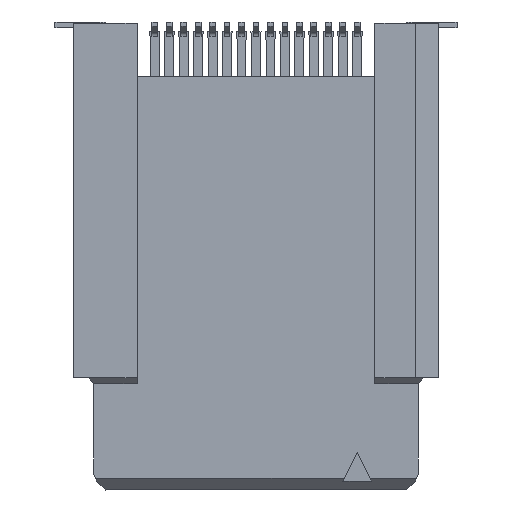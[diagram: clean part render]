
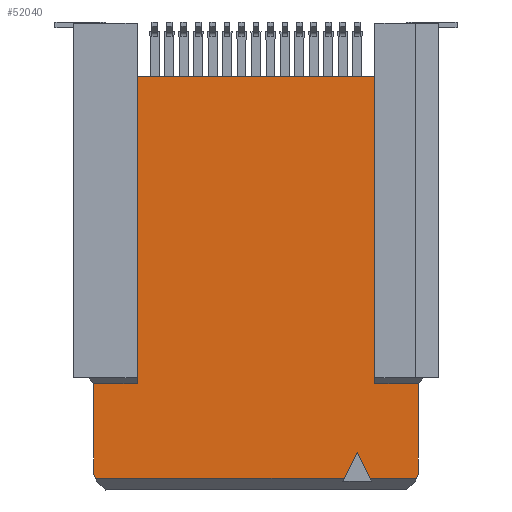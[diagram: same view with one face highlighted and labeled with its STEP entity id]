
A CAD part, front view. The second image highlights one B-rep face of the part: STEP entity #52040.
In plain terms, the highlighted planar face has unit normal (0, -1, 0).
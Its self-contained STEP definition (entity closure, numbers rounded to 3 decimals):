
#42750=CARTESIAN_POINT('',(5.2,-1.54,
20.338));
#42760=VERTEX_POINT('',#42750);
#42790=CARTESIAN_POINT('',(0.,-1.54,20.338));
#42800=DIRECTION('',(-1.,0.,0.));
#42810=VECTOR('',#42800,1.);
#42820=LINE('',#42790,#42810);
#42830=CARTESIAN_POINT('',(-5.43,-1.54,
20.338));
#42840=VERTEX_POINT('',#42830);
#42850=EDGE_CURVE('',#42760,#42840,#42820,.T.);
#47890=CARTESIAN_POINT('',(8.48,-1.54,
21.778));
#47900=VERTEX_POINT('',#47890);
#47930=CARTESIAN_POINT('',(1.,-1.54,
24.77));
#47940=DIRECTION('',(0.928,0.,
-0.371));
#47950=VECTOR('',#47940,1.);
#47960=LINE('',#47930,#47950);
#47970=CARTESIAN_POINT('',(8.33,-1.54,
21.838));
#47980=VERTEX_POINT('',#47970);
#47990=EDGE_CURVE('',#47980,#47900,#47960,.T.);
#48150=CARTESIAN_POINT('',(8.88,-1.54,
21.838));
#48160=DIRECTION('',(-1.,0.,0.));
#48170=VECTOR('',#48160,1.);
#48180=LINE('',#48150,#48170);
#48190=CARTESIAN_POINT('',(5.2,-1.54,
21.838));
#48200=VERTEX_POINT('',#48190);
#48210=EDGE_CURVE('',#47980,#48200,#48180,.T.);
#50990=CARTESIAN_POINT('',(-5.43,-1.54,27.5));
#51000=DIRECTION('',(0.,0.,-1.));
#51010=VECTOR('',#51000,1.);
#51020=LINE('',#50990,#51010);
#51030=CARTESIAN_POINT('',(-5.43,-1.54,
12.118));
#51040=VERTEX_POINT('',#51030);
#51050=EDGE_CURVE('',#42840,#51040,#51020,.T.);
#51250=CARTESIAN_POINT('',(-1.93,-1.54,
2.478));
#51260=DIRECTION('',(0.,-1.,0.));
#51270=DIRECTION('',(0.,0.,1.));
#51280=AXIS2_PLACEMENT_3D('',#51250,#51260,#51270);
#51290=PLANE('',#51280);
#51300=CARTESIAN_POINT('',(5.2,-1.54,
21.088));
#51310=DIRECTION('',(0.,0.,1.));
#51320=VECTOR('',#51310,1.);
#51330=LINE('',#51300,#51320);
#51340=EDGE_CURVE('',#42760,#48200,#51330,.T.);
#51350=ORIENTED_EDGE('',*,*,#51340,.F.);
#51360=ORIENTED_EDGE('',*,*,#48210,.T.);
#51370=ORIENTED_EDGE('',*,*,#47990,.F.);
#51380=CARTESIAN_POINT('',(8.48,-1.54,
3.048));
#51390=DIRECTION('',(0.,0.,-1.));
#51400=VECTOR('',#51390,1.);
#51410=LINE('',#51380,#51400);
#51420=CARTESIAN_POINT('',(8.48,-1.54,
20.178));
#51430=VERTEX_POINT('',#51420);
#51440=EDGE_CURVE('',#47900,#51430,#51410,.T.);
#51450=ORIENTED_EDGE('',*,*,#51440,.F.);
#51460=CARTESIAN_POINT('',(0.,-1.54,
15.938));
#51470=DIRECTION('',(-0.894,0.,
-0.447));
#51480=VECTOR('',#51470,1.);
#51490=LINE('',#51460,#51480);
#51500=CARTESIAN_POINT('',(7.58,-1.54,
19.728));
#51510=VERTEX_POINT('',#51500);
#51520=EDGE_CURVE('',#51430,#51510,#51490,.T.);
#51530=ORIENTED_EDGE('',*,*,#51520,.F.);
#51540=CARTESIAN_POINT('',(0.,-1.54,
23.518));
#51550=DIRECTION('',(0.894,0.,
-0.447));
#51560=VECTOR('',#51550,1.);
#51570=LINE('',#51540,#51560);
#51580=CARTESIAN_POINT('',(8.48,-1.54,
19.278));
#51590=VERTEX_POINT('',#51580);
#51600=EDGE_CURVE('',#51510,#51590,#51570,.T.);
#51610=ORIENTED_EDGE('',*,*,#51600,.F.);
#51620=CARTESIAN_POINT('',(8.48,-1.54,
3.048));
#51630=DIRECTION('',(0.,0.,-1.));
#51640=VECTOR('',#51630,1.);
#51650=LINE('',#51620,#51640);
#51660=CARTESIAN_POINT('',(8.48,-1.54,
10.678));
#51670=VERTEX_POINT('',#51660);
#51680=EDGE_CURVE('',#51590,#51670,#51650,.T.);
#51690=ORIENTED_EDGE('',*,*,#51680,.F.);
#51700=CARTESIAN_POINT('',(1.,-1.54,
7.686));
#51710=DIRECTION('',(0.928,0.,
0.371));
#51720=VECTOR('',#51710,1.);
#51730=LINE('',#51700,#51720);
#51740=CARTESIAN_POINT('',(8.33,-1.54,
10.618));
#51750=VERTEX_POINT('',#51740);
#51760=EDGE_CURVE('',#51750,#51670,#51730,.T.);
#51770=ORIENTED_EDGE('',*,*,#51760,.T.);
#51780=CARTESIAN_POINT('',(8.88,-1.54,
10.618));
#51790=DIRECTION('',(-1.,0.,0.));
#51800=VECTOR('',#51790,1.);
#51810=LINE('',#51780,#51800);
#51820=CARTESIAN_POINT('',(5.2,-1.54,
10.618));
#51830=VERTEX_POINT('',#51820);
#51840=EDGE_CURVE('',#51750,#51830,#51810,.T.);
#51850=ORIENTED_EDGE('',*,*,#51840,.F.);
#51860=CARTESIAN_POINT('',(5.2,-1.54,
11.368));
#51870=DIRECTION('',(0.,0.,-1.));
#51880=VECTOR('',#51870,1.);
#51890=LINE('',#51860,#51880);
#51900=CARTESIAN_POINT('',(5.2,-1.54,
12.118));
#51910=VERTEX_POINT('',#51900);
#51920=EDGE_CURVE('',#51910,#51830,#51890,.T.);
#51930=ORIENTED_EDGE('',*,*,#51920,.T.);
#51940=CARTESIAN_POINT('',(0.,-1.54,12.118));
#51950=DIRECTION('',(1.,0.,0.));
#51960=VECTOR('',#51950,1.);
#51970=LINE('',#51940,#51960);
#51980=EDGE_CURVE('',#51040,#51910,#51970,.T.);
#51990=ORIENTED_EDGE('',*,*,#51980,.T.);
#52000=ORIENTED_EDGE('',*,*,#51050,.T.);
#52010=ORIENTED_EDGE('',*,*,#42850,.T.);
#52020=EDGE_LOOP('',(#52010,#52000,#51990,#51930,#51850,#51770,#51690,
#51610,#51530,#51450,#51370,#51360,#51350));
#52030=FACE_OUTER_BOUND('',#52020,.T.);
#52040=ADVANCED_FACE('',(#52030),#51290,.T.);
